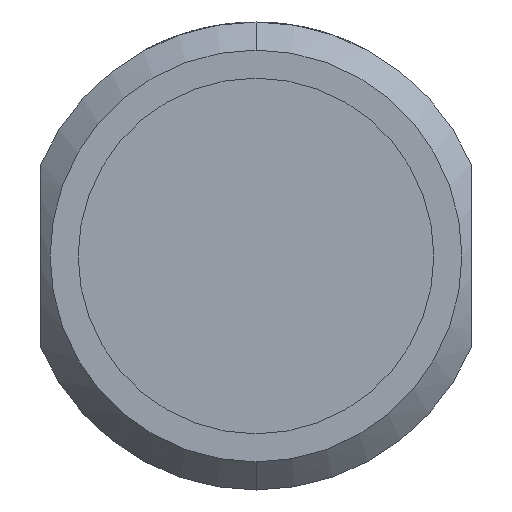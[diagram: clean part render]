
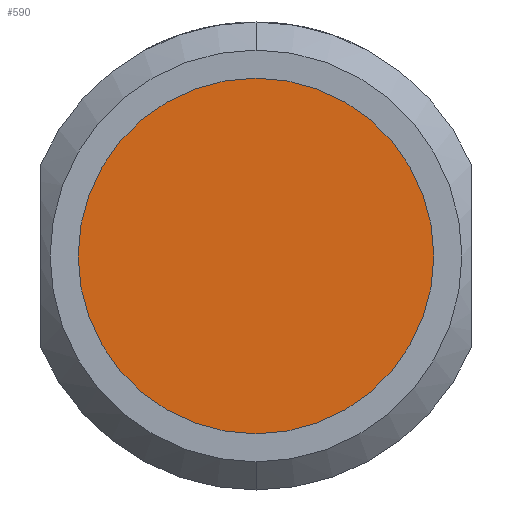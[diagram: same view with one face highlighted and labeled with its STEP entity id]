
A CAD part, front view. The second image highlights one B-rep face of the part: STEP entity #590.
In plain terms, the highlighted planar face has unit normal (0, -1, 0).
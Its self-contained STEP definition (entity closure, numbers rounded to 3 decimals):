
#246 = VERTEX_POINT ( 'NONE', #2489 ) ;
#253 = EDGE_CURVE ( 'NONE', #246, #254, #2525, .T. ) ;
#254 = VERTEX_POINT ( 'NONE', #2516 ) ;
#584 = EDGE_CURVE ( 'NONE', #254, #246, #3249, .T. ) ;
#590 = ADVANCED_FACE ( 'NONE', ( #3275 ), #3280, .T. ) ;
#591 = EDGE_LOOP ( 'NONE', ( #615, #637 ) ) ;
#615 = ORIENTED_EDGE ( 'NONE', *, *, #584, .T. ) ;
#637 = ORIENTED_EDGE ( 'NONE', *, *, #253, .T. ) ;
#2489 = CARTESIAN_POINT ( 'NONE',  ( 0., 10., 9.5 ) ) ;
#2516 = CARTESIAN_POINT ( 'NONE',  ( 0., 10., -9.5 ) ) ;
#2517 = DIRECTION ( 'NONE',  ( 0., 0., -1. ) ) ;
#2518 = DIRECTION ( 'NONE',  ( 0., -1., 0. ) ) ;
#2519 = CARTESIAN_POINT ( 'NONE',  ( 0., 10., 0. ) ) ;
#2520 = AXIS2_PLACEMENT_3D ( 'NONE', #2519, #2518, #2517 ) ;
#2525 = CIRCLE ( 'NONE', #2520, 9.5 ) ;
#3245 = DIRECTION ( 'NONE',  ( 0., 0., -1. ) ) ;
#3246 = DIRECTION ( 'NONE',  ( 0., -1., 0. ) ) ;
#3247 = CARTESIAN_POINT ( 'NONE',  ( 0., 10., 0. ) ) ;
#3248 = AXIS2_PLACEMENT_3D ( 'NONE', #3247, #3246, #3245 ) ;
#3249 = CIRCLE ( 'NONE', #3248, 9.5 ) ;
#3271 = DIRECTION ( 'NONE',  ( 0., 0., -1. ) ) ;
#3272 = DIRECTION ( 'NONE',  ( 0., -1., 0. ) ) ;
#3273 = CARTESIAN_POINT ( 'NONE',  ( 0., 10., 0. ) ) ;
#3274 = AXIS2_PLACEMENT_3D ( 'NONE', #3273, #3272, #3271 ) ;
#3275 = FACE_OUTER_BOUND ( 'NONE', #591, .T. ) ;
#3280 = PLANE ( 'NONE',  #3274 ) ;
